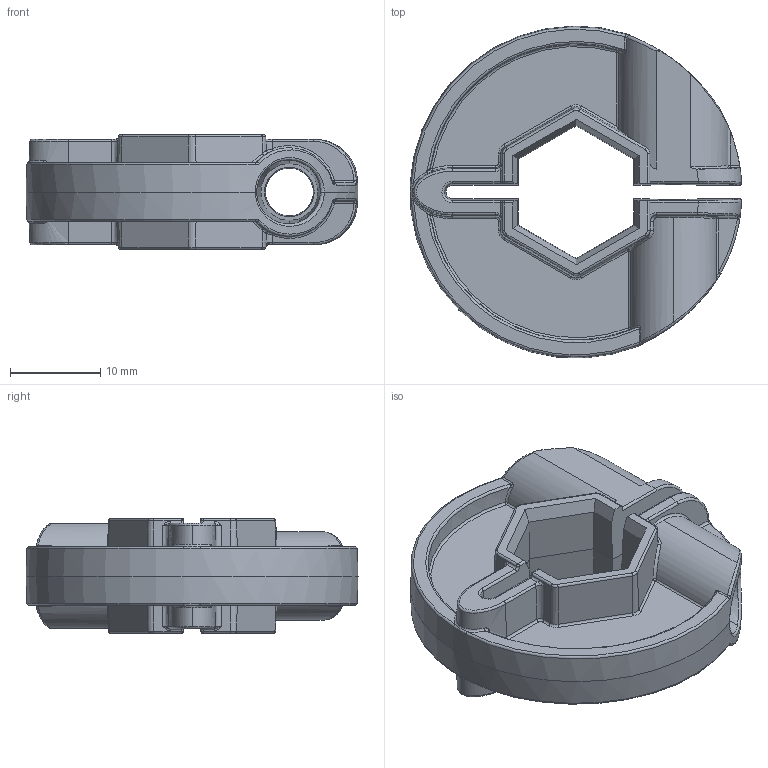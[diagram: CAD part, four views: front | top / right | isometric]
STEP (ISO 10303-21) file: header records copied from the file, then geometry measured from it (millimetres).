
FILE_DESCRIPTION (( 'STEP AP214' ), '1' );
FILE_NAME ('Molded_GF_Nylon_Clamping_Collars-TTB-2026- KITBOT-MOLDED-COLLARS.step', '2025-12-23T15:52:51', ( '' ), ( '' ), 'SwSTEP 2.0', 'SolidWorks 2026', '' );
FILE_SCHEMA (( 'AUTOMOTIVE_DESIGN' ));
Length unit declared in the file: inch
Products named in the file (1): Molded_GF_Nylon_Clamping_Collars-TTB-2026- KITBOT-MOLDED-COLLARS
Bounding box: 36.73 x 36.75 x 12.7 mm (x, y, z)
Volume: 4347.8 mm3; surface area: 4851.6 mm2
Topology: 1 solids, 1 shells, 371 faces, 874 edges, 498 vertices
Faces by surface type: cylinder 104, plane 88, bspline 69, torus 51, cone 36, sphere 23
Entity records: 14307 total; most frequent: CARTESIAN_POINT 6500, ORIENTED_EDGE 1738, DIRECTION 1488, EDGE_CURVE 869, AXIS2_PLACEMENT_3D 580, VERTEX_POINT 498, EDGE_LOOP 373, FACE_OUTER_BOUND 371
